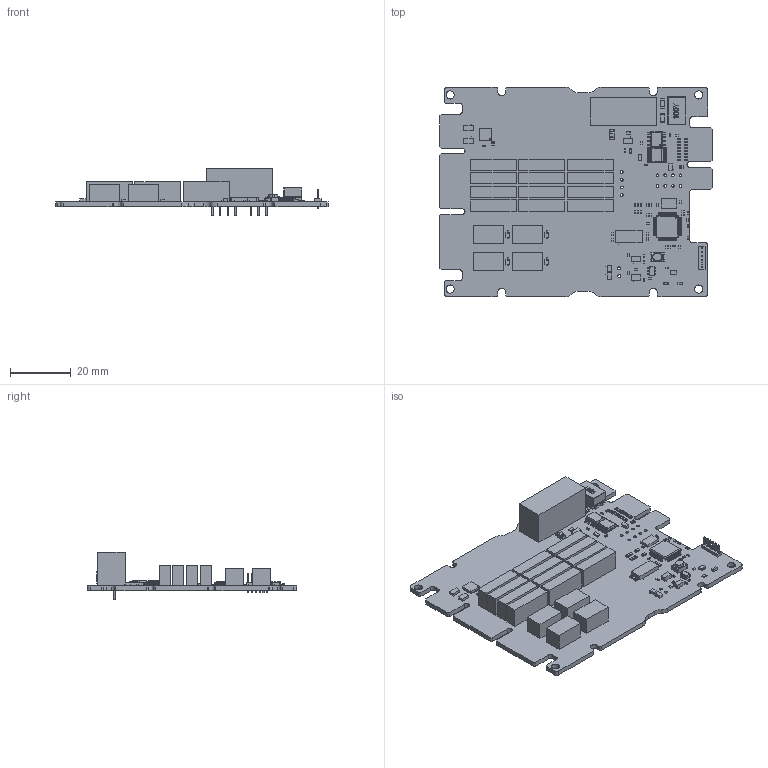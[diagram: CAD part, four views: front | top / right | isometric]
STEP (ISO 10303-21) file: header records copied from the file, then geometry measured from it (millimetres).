
FILE_DESCRIPTION(('Open CASCADE Model'),'2;1');
FILE_NAME('Open CASCADE Shape Model','2026-08-19T15:18:43',('Author'),( 'Open CASCADE'),'Open CASCADE STEP processor 7.5','Open CASCADE 7.5' ,'Unknown');
FILE_SCHEMA(('AUTOMOTIVE_DESIGN { 1 0 10303 214 1 1 1 1 }'));
Length unit declared in the file: millimetre
Products named in the file (301): Open CASCADE STEP translator 7.5 4639; Open CASCADE STEP translator 7.5 4640; Open CASCADE STEP translator 7.5 4641; Open CASCADE STEP translator 7.5 4642; Open CASCADE STEP translator 7.5 4643; Open CASCADE STEP translator 7.5 4644; Open CASCADE STEP translator 7.5 4645; Open CASCADE STEP translator 7.5 4646; Open CASCADE STEP translator 7.5 4647; Open CASCADE STEP translator 7.5 4648; Open CASCADE STEP translator 7.5 4649; Open CASCADE STEP translator 7.5 4650; Open CASCADE STEP translator 7.5 4651; Open CASCADE STEP translator 7.5 4652; Open CASCADE STEP translator 7.5 4653; Open CASCADE STEP translator 7.5 4654; Open CASCADE STEP translator 7.5 4655; Open CASCADE STEP translator 7.5 4656; Open CASCADE STEP translator 7.5 4657; Open CASCADE STEP translator 7.5 4658; Open CASCADE STEP translator 7.5 4659; Open CASCADE STEP translator 7.5 4660; Open CASCADE STEP translator 7.5 4661; Open CASCADE STEP translator 7.5 4662; Open CASCADE STEP translator 7.5 4663; Open CASCADE STEP translator 7.5 4664; Open CASCADE STEP translator 7.5 4665; Open CASCADE STEP translator 7.5 4666; Open CASCADE STEP translator 7.5 4667; Open CASCADE STEP translator 7.5 4668; Open CASCADE STEP translator 7.5 4669; Open CASCADE STEP translator 7.5 4670; Open CASCADE STEP translator 7.5 4671; Open CASCADE STEP translator 7.5 4672; Open CASCADE STEP translator 7.5 4673; Open CASCADE STEP translator 7.5 4674; Open CASCADE STEP translator 7.5 4675; Open CASCADE STEP translator 7.5 4676; Open CASCADE STEP translator 7.5 4677; Open CASCADE STEP translator 7.5 4678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
Bounding box: 90 x 69 x 15.67 mm (x, y, z)
Volume: 17664.5 mm3; surface area: 21005 mm2
Topology: 414 solids, 414 shells, 4191 faces, 9822 edges, 6482 vertices
Faces by surface type: plane 3359, cylinder 625, bspline 169, sphere 26, torus 8, cone 4
Full cylindrical faces by diameter (mm): 0.08 x1, 0.289 x1, 0.3 x15, 0.5 x3, 0.508 x7, 0.6 x6, 0.762 x7, 0.9 x60, 1 x2, 1.4 x1, 1.6 x2, 2.7 x4
Entity records: 130381 total; most frequent: CARTESIAN_POINT 23150, ORIENTED_EDGE 19644, DIRECTION 18646, EDGE_CURVE 9822, LINE 8116, VECTOR 8116, VERTEX_POINT 6482, AXIS2_PLACEMENT_3D 5265
